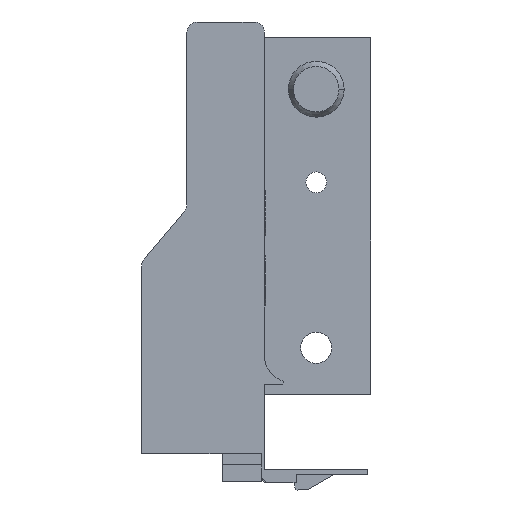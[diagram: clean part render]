
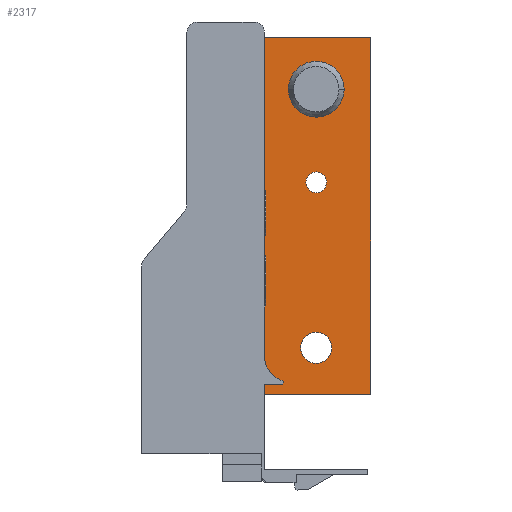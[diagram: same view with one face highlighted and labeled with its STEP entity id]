
A CAD part, front view. The second image highlights one B-rep face of the part: STEP entity #2317.
In plain terms, the highlighted planar face has unit normal (0, -1, 0).
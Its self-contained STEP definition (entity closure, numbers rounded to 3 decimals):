
#55 = FACE_OUTER_BOUND ( 'NONE', #673, .T. ) ;
#56 = FACE_BOUND ( 'NONE', #627, .T. ) ;
#57 = FACE_BOUND ( 'NONE', #662, .T. ) ;
#58 = FACE_BOUND ( 'NONE', #647, .T. ) ;
#202 = VECTOR ( 'NONE', #1648, 1000. ) ;
#203 = LINE ( 'NONE', #1647, #202 ) ;
#204 = VECTOR ( 'NONE', #1646, 1000. ) ;
#205 = LINE ( 'NONE', #1645, #204 ) ;
#206 = VECTOR ( 'NONE', #1644, 1000. ) ;
#207 = CIRCLE ( 'NONE', #1073, 2. ) ;
#208 = LINE ( 'NONE', #1643, #206 ) ;
#209 = CIRCLE ( 'NONE', #1072, 3. ) ;
#210 = CIRCLE ( 'NONE', #1071, 5.4 ) ;
#211 = VECTOR ( 'NONE', #1633, 1000. ) ;
#212 = LINE ( 'NONE', #1632, #211 ) ;
#397 = ORIENTED_EDGE ( 'NONE', *, *, #987, .T. ) ;
#398 = ORIENTED_EDGE ( 'NONE', *, *, #986, .F. ) ;
#399 = ORIENTED_EDGE ( 'NONE', *, *, #818, .F. ) ;
#400 = ORIENTED_EDGE ( 'NONE', *, *, #981, .F. ) ;
#401 = ORIENTED_EDGE ( 'NONE', *, *, #824, .T. ) ;
#402 = ORIENTED_EDGE ( 'NONE', *, *, #985, .T. ) ;
#403 = ORIENTED_EDGE ( 'NONE', *, *, #984, .F. ) ;
#404 = ORIENTED_EDGE ( 'NONE', *, *, #813, .F. ) ;
#405 = ORIENTED_EDGE ( 'NONE', *, *, #983, .F. ) ;
#406 = ORIENTED_EDGE ( 'NONE', *, *, #809, .F. ) ;
#407 = ORIENTED_EDGE ( 'NONE', *, *, #982, .T. ) ;
#408 = ORIENTED_EDGE ( 'NONE', *, *, #802, .T. ) ;
#627 = EDGE_LOOP ( 'NONE', ( #404, #403 ) ) ;
#647 = EDGE_LOOP ( 'NONE', ( #408, #407 ) ) ;
#662 = EDGE_LOOP ( 'NONE', ( #406, #405 ) ) ;
#673 = EDGE_LOOP ( 'NONE', ( #402, #401, #400, #399, #398, #397 ) ) ;
#802 = EDGE_CURVE ( 'NONE', #1213, #1214, #2718, .T. ) ;
#809 = EDGE_CURVE ( 'NONE', #1206, #1205, #2702, .T. ) ;
#813 = EDGE_CURVE ( 'NONE', #1202, #1201, #2735, .T. ) ;
#818 = EDGE_CURVE ( 'NONE', #1197, #1196, #2618, .T. ) ;
#824 = EDGE_CURVE ( 'NONE', #1191, #1190, #2628, .T. ) ;
#981 = EDGE_CURVE ( 'NONE', #1196, #1190, #212, .T. ) ;
#982 = EDGE_CURVE ( 'NONE', #1214, #1213, #210, .T. ) ;
#983 = EDGE_CURVE ( 'NONE', #1205, #1206, #209, .T. ) ;
#984 = EDGE_CURVE ( 'NONE', #1201, #1202, #207, .T. ) ;
#985 = EDGE_CURVE ( 'NONE', #1321, #1191, #208, .T. ) ;
#986 = EDGE_CURVE ( 'NONE', #1322, #1197, #205, .T. ) ;
#987 = EDGE_CURVE ( 'NONE', #1322, #1321, #203, .T. ) ;
#1033 = AXIS2_PLACEMENT_3D ( 'NONE', #1374, #1375, #1376 ) ;
#1036 = AXIS2_PLACEMENT_3D ( 'NONE', #1391, #1392, #1393 ) ;
#1038 = AXIS2_PLACEMENT_3D ( 'NONE', #1401, #1402, #1403 ) ;
#1071 = AXIS2_PLACEMENT_3D ( 'NONE', #1634, #1635, #1636 ) ;
#1072 = AXIS2_PLACEMENT_3D ( 'NONE', #1637, #1638, #1639 ) ;
#1073 = AXIS2_PLACEMENT_3D ( 'NONE', #1640, #1641, #1642 ) ;
#1140 = AXIS2_PLACEMENT_3D ( 'NONE', #2119, #2120, #2121 ) ;
#1190 = VERTEX_POINT ( 'NONE', #1754 ) ;
#1191 = VERTEX_POINT ( 'NONE', #1755 ) ;
#1196 = VERTEX_POINT ( 'NONE', #1760 ) ;
#1197 = VERTEX_POINT ( 'NONE', #1761 ) ;
#1201 = VERTEX_POINT ( 'NONE', #1765 ) ;
#1202 = VERTEX_POINT ( 'NONE', #1766 ) ;
#1205 = VERTEX_POINT ( 'NONE', #1769 ) ;
#1206 = VERTEX_POINT ( 'NONE', #1770 ) ;
#1213 = VERTEX_POINT ( 'NONE', #1777 ) ;
#1214 = VERTEX_POINT ( 'NONE', #1778 ) ;
#1321 = VERTEX_POINT ( 'NONE', #1885 ) ;
#1322 = VERTEX_POINT ( 'NONE', #1886 ) ;
#1374 = CARTESIAN_POINT ( 'NONE',  ( 31.5, 447.2, 57. ) ) ;
#1375 = DIRECTION ( 'NONE',  ( 0., 1., 0. ) ) ;
#1376 = DIRECTION ( 'NONE',  ( -1., 0., 0. ) ) ;
#1391 = CARTESIAN_POINT ( 'NONE',  ( 31.5, 447.2, 7. ) ) ;
#1392 = DIRECTION ( 'NONE',  ( 0., -1., 0. ) ) ;
#1393 = DIRECTION ( 'NONE',  ( -1., 0., 0. ) ) ;
#1401 = CARTESIAN_POINT ( 'NONE',  ( 31.5, 447.2, 39. ) ) ;
#1402 = DIRECTION ( 'NONE',  ( 0., -1., 0. ) ) ;
#1403 = DIRECTION ( 'NONE',  ( -1., 0., 0. ) ) ;
#1632 = CARTESIAN_POINT ( 'NONE',  ( 21.1, 447.2, 27. ) ) ;
#1633 = DIRECTION ( 'NONE',  ( 0., 0., 1. ) ) ;
#1634 = CARTESIAN_POINT ( 'NONE',  ( 31.5, 447.2, 57. ) ) ;
#1635 = DIRECTION ( 'NONE',  ( 0., 1., 0. ) ) ;
#1636 = DIRECTION ( 'NONE',  ( -1., 0., 0. ) ) ;
#1637 = CARTESIAN_POINT ( 'NONE',  ( 31.5, 447.2, 7. ) ) ;
#1638 = DIRECTION ( 'NONE',  ( 0., -1., 0. ) ) ;
#1639 = DIRECTION ( 'NONE',  ( -1., 0., 0. ) ) ;
#1640 = CARTESIAN_POINT ( 'NONE',  ( 31.5, 447.2, 39. ) ) ;
#1641 = DIRECTION ( 'NONE',  ( 0., -1., 0. ) ) ;
#1642 = DIRECTION ( 'NONE',  ( -1., 0., 0. ) ) ;
#1643 = CARTESIAN_POINT ( 'NONE',  ( 42., 447.2, 27. ) ) ;
#1644 = DIRECTION ( 'NONE',  ( 0., 0., 1. ) ) ;
#1645 = CARTESIAN_POINT ( 'NONE',  ( 21.5, 447.2, -2. ) ) ;
#1646 = DIRECTION ( 'NONE',  ( 0., 0., 1. ) ) ;
#1647 = CARTESIAN_POINT ( 'NONE',  ( 21.5, 447.2, -2. ) ) ;
#1648 = DIRECTION ( 'NONE',  ( 1., 0., 0. ) ) ;
#1754 = CARTESIAN_POINT ( 'NONE',  ( 21.1, 447.2, 67. ) ) ;
#1755 = CARTESIAN_POINT ( 'NONE',  ( 42., 447.2, 67. ) ) ;
#1760 = CARTESIAN_POINT ( 'NONE',  ( 21.1, 447.2, 27. ) ) ;
#1761 = CARTESIAN_POINT ( 'NONE',  ( 21.5, 447.2, 27. ) ) ;
#1765 = CARTESIAN_POINT ( 'NONE',  ( 29.5, 447.2, 39. ) ) ;
#1766 = CARTESIAN_POINT ( 'NONE',  ( 33.5, 447.2, 39. ) ) ;
#1769 = CARTESIAN_POINT ( 'NONE',  ( 28.5, 447.2, 7. ) ) ;
#1770 = CARTESIAN_POINT ( 'NONE',  ( 34.5, 447.2, 7. ) ) ;
#1777 = CARTESIAN_POINT ( 'NONE',  ( 36.9, 447.2, 57. ) ) ;
#1778 = CARTESIAN_POINT ( 'NONE',  ( 26.1, 447.2, 57. ) ) ;
#1885 = CARTESIAN_POINT ( 'NONE',  ( 42., 447.2, -2. ) ) ;
#1886 = CARTESIAN_POINT ( 'NONE',  ( 21.5, 447.2, -2. ) ) ;
#2118 = PLANE ( 'NONE',  #1140 ) ;
#2119 = CARTESIAN_POINT ( 'NONE',  ( 21.1, 447.2, 27. ) ) ;
#2120 = DIRECTION ( 'NONE',  ( 0., -1., 0. ) ) ;
#2121 = DIRECTION ( 'NONE',  ( -1., 0., 0. ) ) ;
#2317 = ADVANCED_FACE ( 'NONE', ( #58, #57, #56, #55 ), #2118, .T. ) ;
#2618 = LINE ( 'NONE', #2803, #2631 ) ;
#2628 = LINE ( 'NONE', #2824, #2692 ) ;
#2631 = VECTOR ( 'NONE', #2811, 1000. ) ;
#2692 = VECTOR ( 'NONE', #2838, 1000. ) ;
#2702 = CIRCLE ( 'NONE', #1036, 3. ) ;
#2718 = CIRCLE ( 'NONE', #1033, 5.4 ) ;
#2735 = CIRCLE ( 'NONE', #1038, 2. ) ;
#2803 = CARTESIAN_POINT ( 'NONE',  ( 21.1, 447.2, 27. ) ) ;
#2811 = DIRECTION ( 'NONE',  ( -1., 0., 0. ) ) ;
#2824 = CARTESIAN_POINT ( 'NONE',  ( 21.1, 447.2, 67. ) ) ;
#2838 = DIRECTION ( 'NONE',  ( -1., 0., 0. ) ) ;
